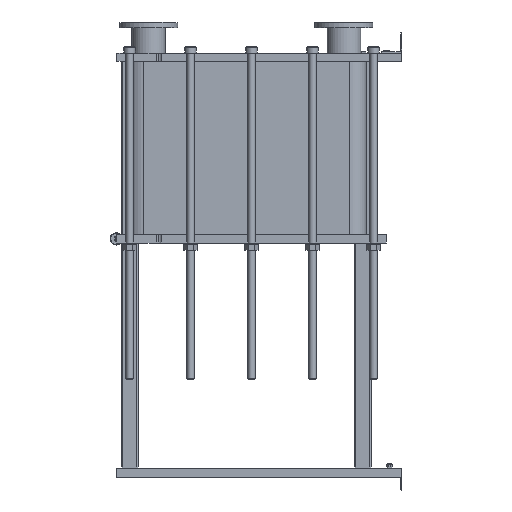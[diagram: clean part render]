
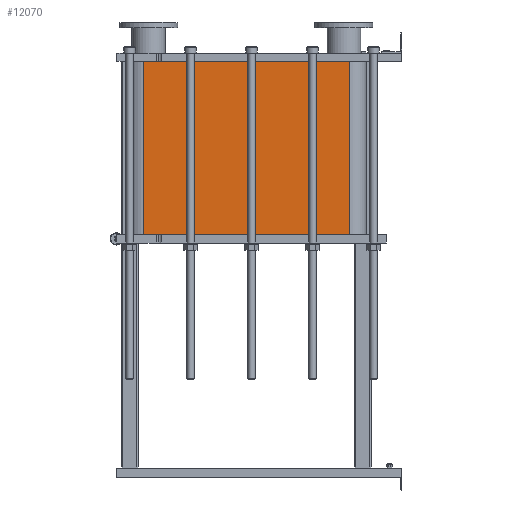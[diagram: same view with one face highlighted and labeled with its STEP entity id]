
A CAD part, left-side view. The second image highlights one B-rep face of the part: STEP entity #12070.
In plain terms, the highlighted planar face has unit normal (-1, 0, 0).
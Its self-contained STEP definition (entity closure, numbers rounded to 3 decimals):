
#1064=LINE('',#21140,#2164);
#1065=LINE('',#21144,#2165);
#1066=LINE('',#21146,#2166);
#1067=LINE('',#21147,#2167);
#2164=VECTOR('',#15790,10.);
#2165=VECTOR('',#15795,10.);
#2166=VECTOR('',#15796,10.);
#2167=VECTOR('',#15797,10.);
#3304=FACE_OUTER_BOUND('',#4091,.T.);
#4091=EDGE_LOOP('',(#9793,#9794,#9795,#9796));
#5677=VERTEX_POINT('',#21137);
#5678=VERTEX_POINT('',#21139);
#5679=VERTEX_POINT('',#21143);
#5680=VERTEX_POINT('',#21145);
#7118=EDGE_CURVE('',#5678,#5677,#1064,.T.);
#7120=EDGE_CURVE('',#5677,#5679,#1065,.T.);
#7121=EDGE_CURVE('',#5680,#5679,#1066,.T.);
#7122=EDGE_CURVE('',#5680,#5678,#1067,.T.);
#9793=ORIENTED_EDGE('',*,*,#7120,.T.);
#9794=ORIENTED_EDGE('',*,*,#7121,.F.);
#9795=ORIENTED_EDGE('',*,*,#7122,.T.);
#9796=ORIENTED_EDGE('',*,*,#7118,.T.);
#11441=PLANE('',#13191);
#12070=ADVANCED_FACE('',(#3304),#11441,.T.);
#13191=AXIS2_PLACEMENT_3D('',#21142,#15793,#15794);
#15790=DIRECTION('',(0.,0.,-1.));
#15793=DIRECTION('center_axis',(-1.,0.,0.));
#15794=DIRECTION('ref_axis',(0.,1.,0.));
#15795=DIRECTION('',(0.,-1.,0.));
#15796=DIRECTION('',(0.,0.,-1.));
#15797=DIRECTION('',(0.,1.,0.));
#21137=CARTESIAN_POINT('',(-248.152,1243.818,-834.9));
#21139=CARTESIAN_POINT('',(-248.152,1243.818,0.));
#21140=CARTESIAN_POINT('',(-248.152,1243.818,0.));
#21142=CARTESIAN_POINT('Origin',(-248.152,251.818,0.));
#21143=CARTESIAN_POINT('',(-248.152,251.818,-834.9));
#21144=CARTESIAN_POINT('',(-248.152,499.818,-834.9));
#21145=CARTESIAN_POINT('',(-248.152,251.818,0.));
#21146=CARTESIAN_POINT('',(-248.152,251.818,0.));
#21147=CARTESIAN_POINT('',(-248.152,251.818,0.));
